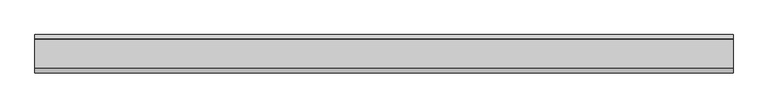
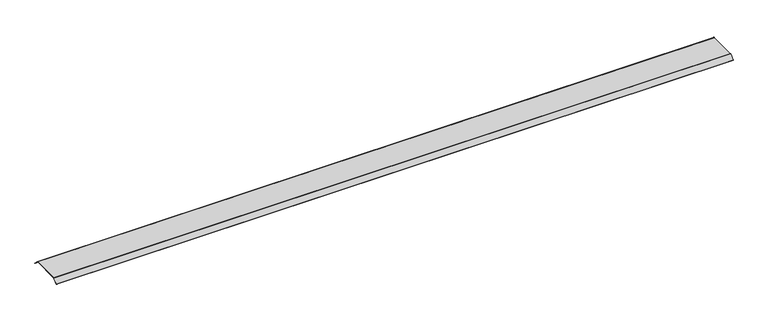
"""IFC4 building model written with IfcOpenShell, lengths in millimetres: proxy geometry, Electrical_Installation_Hager_Blank-Cover-800mm-Double-Sided-Height-40mm : Electrical_Installation_Hager_Blank-Cover-800mm-Double-Sided-Height-40mm."""

from ifc_helpers import new_model, si_unit, point, frame, frame_2d, origin, place, context, project, spatial, polyline, circle_curve, trimmed, segment, composite_curve, outline, extrude, source, transform, mapped, element, save


def electrical_fixtures_804eddf2(model_context):
    return source(origin(), model_context, "Body", "SweptSolid", [
        extrude(outline(composite_curve([segment(trimmed(circle_curve(frame_2d((123.9838855, 19.0468826)), 6.4531174), [point((123.9838855, 25.5))], [point((128.5469286, 23.6099257))], False, "CARTESIAN"), True, "CONTINUOUS"), segment(polyline([(128.5469286, 23.6099257), (165.0386103, -12.8817561), (162.91729, -15.0030764), (126.2293119, 21.6849016)]), True, "CONTINUOUS"), segment(trimmed(circle_curve(frame_2d((124.2614904, 19.7170801)), 2.7829199), [point((126.2293119, 21.6849016))], [point((124.2614904, 22.5))], True, "CARTESIAN"), True, "CONTINUOUS"), segment(polyline([(124.2614904, 22.5), (-124.8229541, 22.5)]), True, "CONTINUOUS"), segment(trimmed(circle_curve(frame_2d((-124.8229541, 21.0725733)), 1.4274267), [point((-124.8229541, 22.5))], [point((-125.8322972, 22.0819164))], True, "CARTESIAN"), True, "CONTINUOUS"), segment(polyline([(-125.8322972, 22.0819164), (-162.91729, -15.0030764), (-165.0386103, -12.8817561), (-127.8206472, 24.336207)]), True, "CONTINUOUS"), segment(trimmed(circle_curve(frame_2d((-125.0110025, 21.5265623)), 3.9734377), [point((-127.8206472, 24.336207))], [point((-125.0110025, 25.5))], False, "CARTESIAN"), True, "CONTINUOUS"), segment(polyline([(-125.0110025, 25.5), (123.9838855, 25.5)]), True, "CONTINUOUS")], self_intersect=False)), frame((0.0, 0.0, 0.0), z_axis=(1.0, 0.0, 0.0), x_axis=(0.0, 1.0, 0.0)), (0.0, 0.0, 1.0), 6011.6956759),
    ])


if __name__ == "__main__":
    model = new_model("IFC4")
    model_context = context("Model", 3, world=origin())
    ifc_project = project(units=[si_unit("LENGTHUNIT", "METRE", prefix="MILLI")], contexts=[model_context])
    site = spatial("IfcSite", under=ifc_project)
    building = spatial("IfcBuilding", under=site)
    placement = place(None, origin())
    electrical_fixtures_shape = electrical_fixtures_804eddf2(model_context)
    element("IfcBuildingElementProxy", 1, Name="Electrical_Installation_Hager_Blank-Cover-800mm-Double-Sided-Height-40mm : Electrical_Installation_Hager_Blank-Cover-800mm-Double-Sided-Height-40mm", ObjectType="Electrical_Installation_Hager_Blank-Cover-800mm-Double-Sided-Height-40mm : Electrical_Installation_Hager_Blank-Cover-800mm-Double-Sided-Height-40mm", at=placement, inside=building, context=model_context, shape_type="MappedRepresentation", body=[
        mapped(electrical_fixtures_shape, transform((0.0, 0.0, 0.0), x_axis=(1.0, 0.0, 0.0), y_axis=(0.0, 1.0, 0.0), z_axis=(0.0, 0.0, 1.0))),
    ])
    save(model, "model.ifc")
